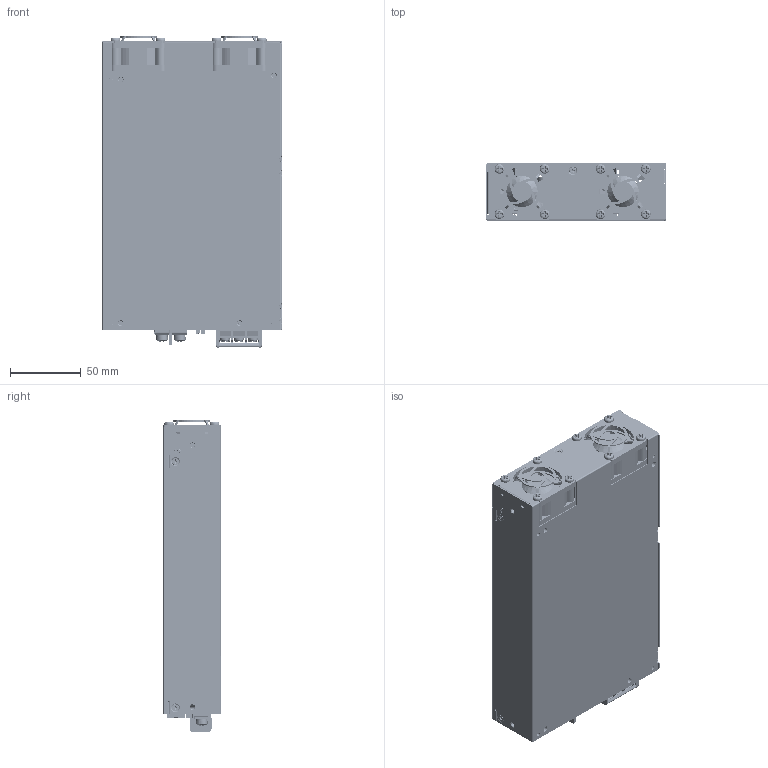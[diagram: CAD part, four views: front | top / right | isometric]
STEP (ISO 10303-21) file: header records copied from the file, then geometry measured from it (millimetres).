
FILE_DESCRIPTION (( 'STEP AP214' ), '1' );
FILE_NAME ('MEB-1K2AXXT ABX_20180822.STEP', '2024-04-29T06:12:50', ( '' ), ( '' ), 'SwSTEP 2.0', 'SolidWorks 2020', '' );
FILE_SCHEMA (( 'AUTOMOTIVE_DESIGN' ));
Length unit declared in the file: millimetre
Products named in the file (74): Z1_1_1_1; CHASSIS_1_1-398838_1_1; PLASTIC_1_1_1; HSK4_1-170715_1_1; A2008WR0-4P_1_1_1; 朴3_SPRING_WASHER_1_1_1; HSK1_1-149010_1_1; YK50A0323000G_1_1_1; TDC-588_1_1_1; 朴5_SPRING_WASHER_1_1_1; INSULATOR_9_1_1_1; HSK1_1-149000_1_1; INSULATOR3_1_1_1; C313_C304_1_1_1; C5_C6_C15_1_1_1; ISO7045-M3X6-4_8_1_1_1; HSK4_1-170727_1_1; INSULATOR_10_1_1_1; C112_1_1_1; C87_1_1_1; PIN001_1_1_1; TDC-587_1-50563_1_1; M3X9_1_1_1; 878331421_1_1_1; TDC-585_1-243764_1_1; INSULATOR_7_1_1_1; HSK_3_1_1_1; OUT_TERMINAL_1_1_1; CH1_1_1_1; HSK2_1-158528_1_1; MEB-1K1A24T_AAA_1_1_1; C303_1_1_1; VR131_1_1_1; PWB_1100W_1_1_1; HSK_4_1_1_1; HSK2_1-158538_1_1; INSULATOR_8_1_1_1; M5X8_1_1_1; KBJ2506__BD1__1_1_1_1; 878331025_1_1_1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
Assembly tree (166 placements, depth 7):
  MEB-1K2AXXT ABX_20180822
    MEB-1K2A__1
      MEB-1K1A24T_AAA_1_1_1
        CH1_1_1_1
          PWB_1100W_1_1_1
          TDC-587_1-50563_1_1
            TDC-587_1-50553_1_1
            A2008WR0-4P_1_1_1  x2
            878331025_1_1_1
            878331421_1_1_1
            A2003WR0-1BX26PA-6T_1_1_1
          DT-5C-B84W-03_1_1_1
          C112_1_1_1  x6
          C117_1_1_1
          C5_C6_C15_1_1_1  x3
          CY_1_1_1  x8
          OUT_TERMINAL_1_1_1  x2
          HSK_1_1_1_1
            HSK1_1-149010_1_1
              HSK1_1-149000_1_1
              PIN001_1_1_1
              PIN004_1_1_1
            KBJ2506__BD1__1_1_1_1  x2
            HEX_NUT_STYLE_1_GRADEAB_DIN_H_1  x2
            M3X9_1_1_1  x2
          HSK_2_1_1_1
            HSK2_1-158538_1_1
              HSK2_1-158528_1_1
              PIN001_1_1_1
              PIN004_1_1_1
            Q3_Q4_1_1_1  x2
            D10_1_1_1  x2
            HEX_NUT_STYLE_1_GRADEAB_DIN_H_1  x4
            CAP_3244081600_1_1_1  x2
            BRACKET_3421267000_1_1_1  x2
          HSK_3_1_1_1
            HSK3_1-166744_1_1
              HSK3_1-166735_1_1
              PIN001_1_1_1  x2
            Q3_Q4_1_1_1  x2
            D10_1_1_1  x2
            M3X9_1_1_1  x4
            HEX_NUT_STYLE_1_GRADEAB_DIN_H_1  x4
          HSK_4_1_1_1
            HSK4_1-170727_1_1
              HSK4_1-170715_1_1
              PIN001_1_1_1  x2
            Q102_Q101_D101_1_1_1  x4
            M3X9_1_1_1  x4
            HEX_NUT_STYLE_1_GRADEAB_DIN_H_1  x4
          INSULATOR_7_1_1_1
          INSULATOR_8_1_1_1
          Q5_Q6_1_1_1
          Z1_1_1_1
          F401_1_1_1
          C313_C304_1_1_1  x2
          C87_1_1_1  x4
          C303_1_1_1
          TDC-588_1_1_1
            TDC-588_PCB_1_1_1
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Bounding box: 127.25 x 40.5 x 219.7 mm (x, y, z)
Surface area: 455015.7 mm2 (no closed solid volume)
Topology: 0 solids, 9422 shells, 9422 faces, 48606 edges, 48550 vertices
Faces by surface type: plane 5358, cylinder 2705, bspline 845, cone 502, torus 12
Entity records: 444608 total; most frequent: CARTESIAN_POINT 207356, DIRECTION 41067, EDGE_CURVE 32524, ORIENTED_EDGE 32524, VERTEX_POINT 32524, VECTOR 20745, LINE 20745, AXIS2_PLACEMENT_3D 10161
